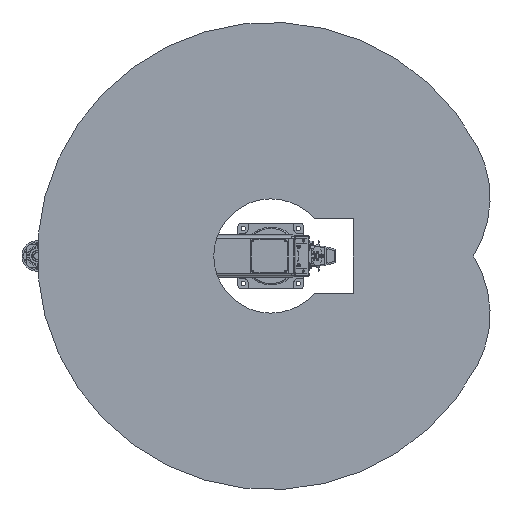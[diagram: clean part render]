
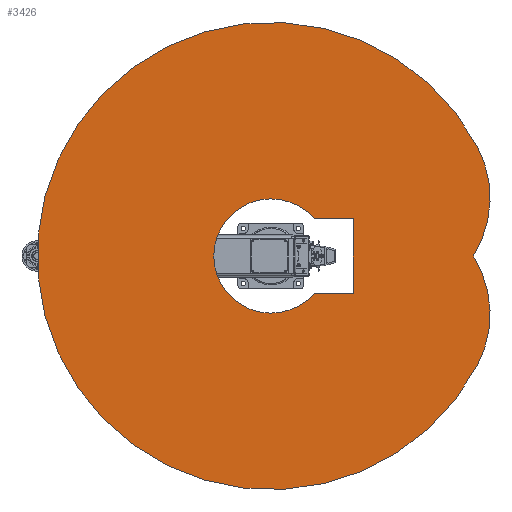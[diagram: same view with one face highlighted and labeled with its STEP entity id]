
A CAD part, front view. The second image highlights one B-rep face of the part: STEP entity #3426.
In plain terms, the highlighted planar face has unit normal (0, -1, 0).
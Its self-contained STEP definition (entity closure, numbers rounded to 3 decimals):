
#3426 = ADVANCED_FACE( '', ( #9048, #9049 ), #9050, .F. );
#9048 = FACE_BOUND( '', #17654, .T. );
#9049 = FACE_OUTER_BOUND( '', #17655, .T. );
#9050 = PLANE( '', #17656 );
#17654 = EDGE_LOOP( '', ( #28951, #28952, #28953, #28954 ) );
#17655 = EDGE_LOOP( '', ( #28955, #28956, #28957 ) );
#17656 = AXIS2_PLACEMENT_3D( '', #28958, #28959, #28960 );
#28951 = ORIENTED_EDGE( '', *, *, #48206, .T. );
#28952 = ORIENTED_EDGE( '', *, *, #48207, .T. );
#28953 = ORIENTED_EDGE( '', *, *, #48208, .T. );
#28954 = ORIENTED_EDGE( '', *, *, #48209, .T. );
#28955 = ORIENTED_EDGE( '', *, *, #48210, .F. );
#28956 = ORIENTED_EDGE( '', *, *, #48211, .F. );
#28957 = ORIENTED_EDGE( '', *, *, #48212, .F. );
#28958 = CARTESIAN_POINT( '', ( 105.631, 0., 198.663 ) );
#28959 = DIRECTION( '', ( 0., 1., 0. ) );
#28960 = DIRECTION( '', ( 0., 0., 1. ) );
#48206 = EDGE_CURVE( '', #57630, #57631, #57632, .T. );
#48207 = EDGE_CURVE( '', #57631, #57633, #57634, .T. );
#48208 = EDGE_CURVE( '', #57633, #57635, #57636, .T. );
#48209 = EDGE_CURVE( '', #57635, #57630, #57637, .T. );
#48210 = EDGE_CURVE( '', #57638, #57639, #57640, .T. );
#48211 = EDGE_CURVE( '', #57641, #57638, #57642, .T. );
#48212 = EDGE_CURVE( '', #57639, #57641, #57643, .T. );
#57630 = VERTEX_POINT( '', #71785 );
#57631 = VERTEX_POINT( '', #71786 );
#57632 = LINE( '', #71787, #71788 );
#57633 = VERTEX_POINT( '', #71789 );
#57634 = CIRCLE( '', #71790, 207.8 );
#57635 = VERTEX_POINT( '', #71791 );
#57636 = LINE( '', #71792, #71793 );
#57637 = LINE( '', #71794, #71795 );
#57638 = VERTEX_POINT( '', #71796 );
#57639 = VERTEX_POINT( '', #71797 );
#57640 = CIRCLE( '', #71798, 400. );
#57641 = VERTEX_POINT( '', #71799 );
#57642 = CIRCLE( '', #71800, 400. );
#57643 = CIRCLE( '', #71801, 850. );
#71785 = CARTESIAN_POINT( '', ( 135., 0., 300. ) );
#71786 = CARTESIAN_POINT( '', ( 135., 0., 157.974 ) );
#71787 = CARTESIAN_POINT( '', ( 135., 0., 300. ) );
#71788 = VECTOR( '', #88093, 1000. );
#71789 = CARTESIAN_POINT( '', ( -135., 0., 157.974 ) );
#71790 = AXIS2_PLACEMENT_3D( '', #88094, #88095, #88096 );
#71791 = CARTESIAN_POINT( '', ( -135., 0., 300. ) );
#71792 = CARTESIAN_POINT( '', ( -135., 0., 157.974 ) );
#71793 = VECTOR( '', #88097, 1000. );
#71794 = CARTESIAN_POINT( '', ( -135., 0., 300. ) );
#71795 = VECTOR( '', #88098, 1000. );
#71796 = CARTESIAN_POINT( '', ( 0., 0., 736.985 ) );
#71797 = CARTESIAN_POINT( '', ( 399.051, 0., 750.505 ) );
#71798 = AXIS2_PLACEMENT_3D( '', #88099, #88100, #88101 );
#71799 = CARTESIAN_POINT( '', ( -399.051, 0., 750.505 ) );
#71800 = AXIS2_PLACEMENT_3D( '', #88102, #88103, #88104 );
#71801 = AXIS2_PLACEMENT_3D( '', #88105, #88106, #88107 );
#88093 = DIRECTION( '', ( 0., 0., -1. ) );
#88094 = CARTESIAN_POINT( '', ( 0., 0., 0. ) );
#88095 = DIRECTION( '', ( 0., 1., 0. ) );
#88096 = DIRECTION( '', ( 1., 0., 0. ) );
#88097 = DIRECTION( '', ( 0., 0., 1. ) );
#88098 = DIRECTION( '', ( 1., 0., 0. ) );
#88099 = CARTESIAN_POINT( '', ( 211.262, 0., 397.326 ) );
#88100 = DIRECTION( '', ( 0., 1., 0. ) );
#88101 = DIRECTION( '', ( 1., 0., 0. ) );
#88102 = CARTESIAN_POINT( '', ( -211.262, 0., 397.326 ) );
#88103 = DIRECTION( '', ( 0., 1., 0. ) );
#88104 = DIRECTION( '', ( 1., 0., 0. ) );
#88105 = CARTESIAN_POINT( '', ( 0., 0., 0. ) );
#88106 = DIRECTION( '', ( 0., 1., 0. ) );
#88107 = DIRECTION( '', ( 1., 0., 0. ) );
